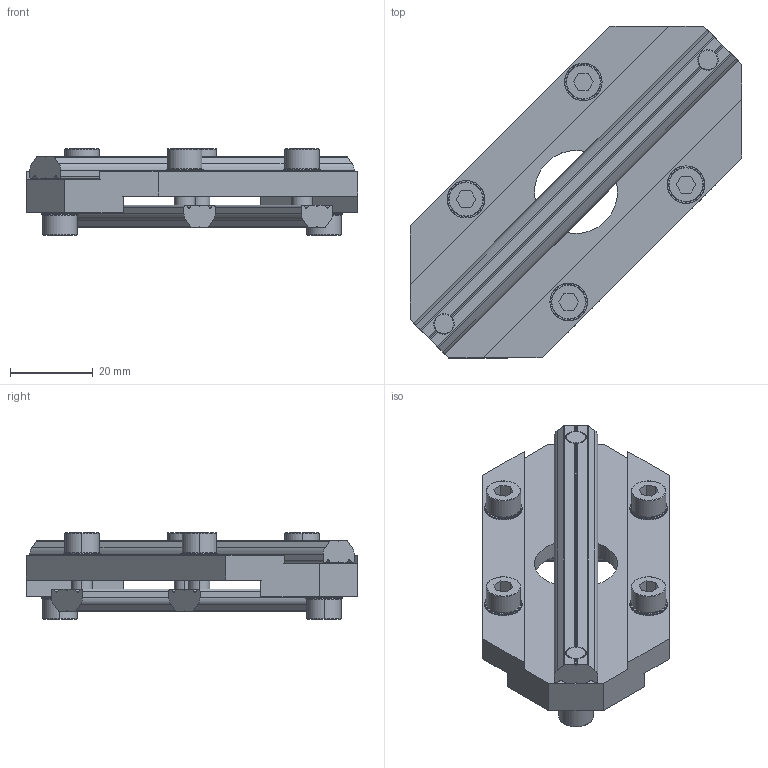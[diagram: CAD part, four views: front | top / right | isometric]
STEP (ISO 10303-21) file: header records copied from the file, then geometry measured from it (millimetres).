
FILE_DESCRIPTION (( 'STEP AP214' ), '1' );
FILE_NAME ('SMBA-2580T.STEP', '2022-12-08T02:24:58', ( '' ), ( '' ), 'SwSTEP 2.0', 'SolidWorks 2018', '' );
FILE_SCHEMA (( 'AUTOMOTIVE_DESIGN' ));
Length unit declared in the file: millimetre
Products named in the file (1): SMBA-2580T
Bounding box: 80 x 80 x 20.9 mm (x, y, z)
Volume: 30628.8 mm3; surface area: 20372.9 mm2
Topology: 16 solids, 16 shells, 1290 faces, 3758 edges, 2488 vertices
Faces by surface type: plane 1126, cylinder 128, cone 36
Entity records: 57645 total; most frequent: CARTESIAN_POINT 8085, ORIENTED_EDGE 7516, DIRECTION 7488, EDGE_CURVE 3758, AXIS2_PLACEMENT_3D 2523, VERTEX_POINT 2488, VECTOR 2442, LINE 2442
